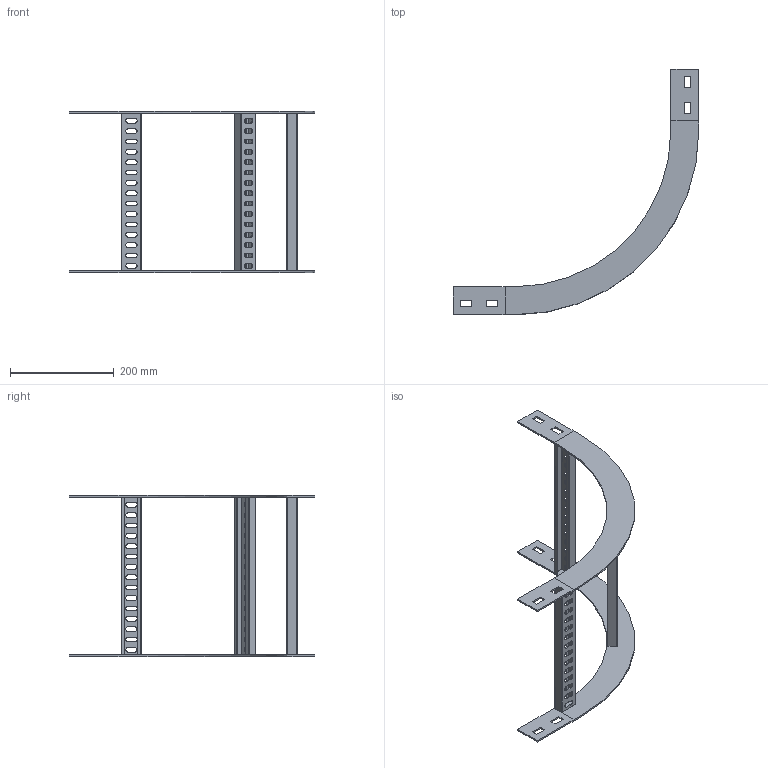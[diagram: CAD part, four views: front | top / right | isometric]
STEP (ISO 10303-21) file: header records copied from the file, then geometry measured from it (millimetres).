
FILE_DESCRIPTION(/* description */ ('','CAx-IF Rec.Pracs.---Representation and Presentation of Product Manufacturing Information (PMI)---4.0---2014-10-13'),/* implementation_level */ '2;1');
FILE_NAME(/* name */ 'Eurostrut_EOR60-300-300_Outisde Riser 90 for Cable Ladder ECL.step',/* time_stamp */ '2026-09-07T11:22:50+02:00',/* author */ (''),/* organization */ (''),/* preprocessor_version */ 'ST-DEVELOPER v20.1',/* originating_system */ 'Autodesk Revit 2027 27.2.0.39',/* authorisation */ '');
FILE_SCHEMA (('AP242_MANAGED_MODEL_BASED_3D_ENGINEERING_MIM_LF { 1 0 10303 442 2 1 4 }'));
Length unit declared in the file: millimetre
Products named in the file (4): TopLevelAssembly; Eurostrut_Cable Ladder_Accessory End_54-94-142; Eurostrut_Cable Ladder_Rung_V2 Vertical_Array EOR_Slotted; Sweep
Assembly tree (6 placements, depth 2):
  TopLevelAssembly
    Eurostrut_Cable Ladder_Accessory End_54-94-142  x4
    Eurostrut_Cable Ladder_Rung_V2 Vertical_Array EOR_Slotted
    Sweep
Bounding box: 474 x 474 x 311 mm (x, y, z)
Volume: 346041.4 mm3; surface area: 322640.4 mm2
Topology: 9 solids, 9 shells, 310 faces, 876 edges, 584 vertices
Faces by surface type: plane 204, bspline 90, cylinder 16
Entity records: 11598 total; most frequent: CARTESIAN_POINT 4348, ORIENTED_EDGE 1536, DIRECTION 1356, EDGE_CURVE 768, LINE 556, VECTOR 556, VERTEX_POINT 512, AXIS2_PLACEMENT_3D 400
